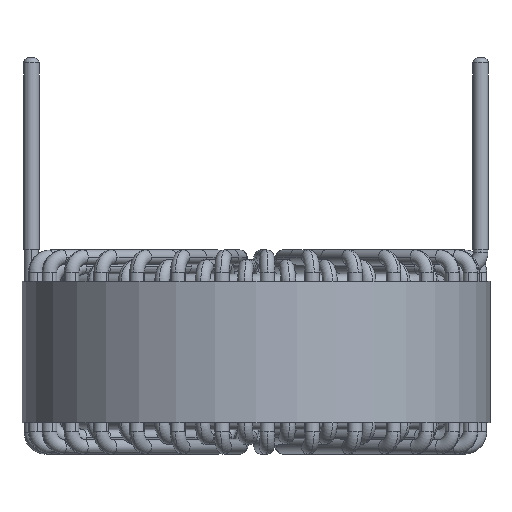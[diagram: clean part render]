
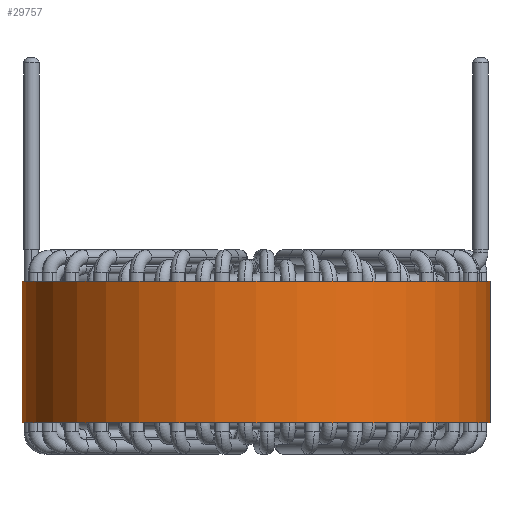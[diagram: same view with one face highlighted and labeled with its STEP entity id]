
A CAD part, front view. The second image highlights one B-rep face of the part: STEP entity #29757.
In plain terms, the highlighted cylindrical face has radius 23.15 mm (diameter 46.3 mm), a partial arc.
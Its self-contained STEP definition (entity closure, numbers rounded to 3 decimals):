
#2443 = CARTESIAN_POINT ( 'NONE',  ( 0., 0., -7. ) ) ;
#3302 = VECTOR ( 'NONE', #21952, 1000. ) ;
#3891 = CARTESIAN_POINT ( 'NONE',  ( 0., 0., 7. ) ) ;
#7693 = VERTEX_POINT ( 'NONE', #41411 ) ;
#8943 = DIRECTION ( 'NONE',  ( 1., 0., 0. ) ) ;
#9529 = EDGE_CURVE ( 'NONE', #7693, #49093, #17441, .T. ) ;
#9948 = DIRECTION ( 'NONE',  ( 0., 0., -1. ) ) ;
#11574 = EDGE_CURVE ( 'NONE', #49093, #69237, #16583, .T. ) ;
#11619 = CIRCLE ( 'NONE', #13739, 23.15 ) ;
#11733 = DIRECTION ( 'NONE',  ( -1., 0., 0. ) ) ;
#13739 = AXIS2_PLACEMENT_3D ( 'NONE', #3891, #30434, #8943 ) ;
#14524 = CYLINDRICAL_SURFACE ( 'NONE', #21718, 23.15 ) ;
#16583 = CIRCLE ( 'NONE', #58597, 23.15 ) ;
#17441 = LINE ( 'NONE', #53407, #38062 ) ;
#20425 = ORIENTED_EDGE ( 'NONE', *, *, #11574, .T. ) ;
#21718 = AXIS2_PLACEMENT_3D ( 'NONE', #44436, #44210, #11733 ) ;
#21952 = DIRECTION ( 'NONE',  ( 0., 0., -1. ) ) ;
#22327 = CARTESIAN_POINT ( 'NONE',  ( 23.15, 0., -7. ) ) ;
#24155 = DIRECTION ( 'NONE',  ( 0., 0., 1. ) ) ;
#27913 = ORIENTED_EDGE ( 'NONE', *, *, #30435, .F. ) ;
#29757 = ADVANCED_FACE ( 'NONE', ( #50793 ), #14524, .T. ) ;
#30434 = DIRECTION ( 'NONE',  ( 0., 0., 1. ) ) ;
#30435 = EDGE_CURVE ( 'NONE', #49105, #69237, #47204, .T. ) ;
#34963 = DIRECTION ( 'NONE',  ( 1., 0., 0. ) ) ;
#35349 = EDGE_CURVE ( 'NONE', #7693, #49105, #11619, .T. ) ;
#38062 = VECTOR ( 'NONE', #9948, 1000. ) ;
#40447 = ORIENTED_EDGE ( 'NONE', *, *, #9529, .T. ) ;
#41411 = CARTESIAN_POINT ( 'NONE',  ( -23.15, 0., 7. ) ) ;
#43383 = CARTESIAN_POINT ( 'NONE',  ( 23.15, 0., 7. ) ) ;
#44210 = DIRECTION ( 'NONE',  ( 0., 0., -1. ) ) ;
#44436 = CARTESIAN_POINT ( 'NONE',  ( 0., 0., 7. ) ) ;
#45255 = CARTESIAN_POINT ( 'NONE',  ( -23.15, 0., -7. ) ) ;
#47204 = LINE ( 'NONE', #43383, #3302 ) ;
#49093 = VERTEX_POINT ( 'NONE', #45255 ) ;
#49105 = VERTEX_POINT ( 'NONE', #55749 ) ;
#50793 = FACE_OUTER_BOUND ( 'NONE', #70971, .T. ) ;
#53407 = CARTESIAN_POINT ( 'NONE',  ( -23.15, 0., 7. ) ) ;
#55749 = CARTESIAN_POINT ( 'NONE',  ( 23.15, 0., 7. ) ) ;
#58597 = AXIS2_PLACEMENT_3D ( 'NONE', #2443, #24155, #34963 ) ;
#62640 = ORIENTED_EDGE ( 'NONE', *, *, #35349, .F. ) ;
#69237 = VERTEX_POINT ( 'NONE', #22327 ) ;
#70971 = EDGE_LOOP ( 'NONE', ( #27913, #62640, #40447, #20425 ) ) ;
